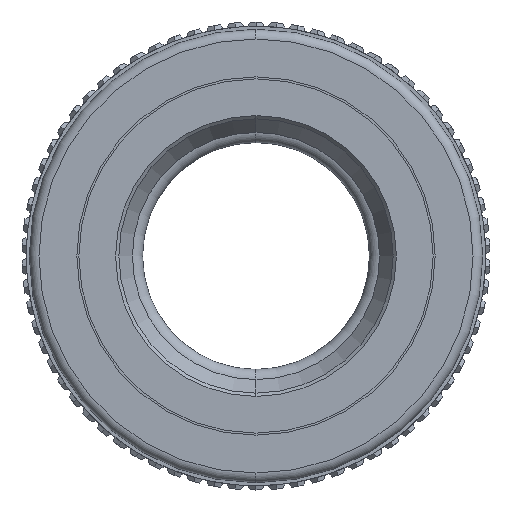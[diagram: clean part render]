
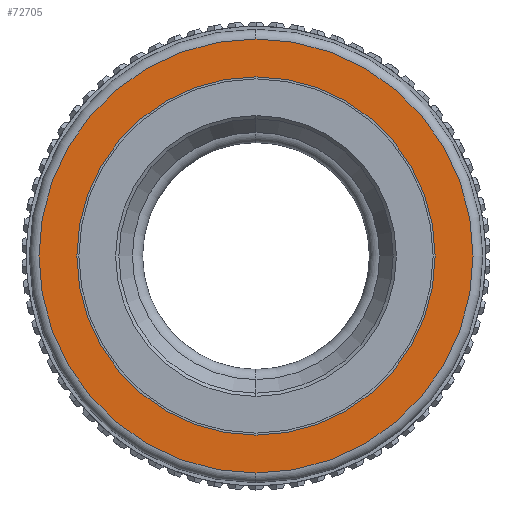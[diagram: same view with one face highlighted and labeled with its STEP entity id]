
A CAD part, left-side view. The second image highlights one B-rep face of the part: STEP entity #72705.
In plain terms, the highlighted planar face has unit normal (-1, 0, 0).
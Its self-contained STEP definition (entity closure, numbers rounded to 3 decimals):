
#1708 = EDGE_CURVE ( 'NONE', #17725, #106038, #87729, .T. ) ;
#2070 = DIRECTION ( 'NONE',  ( 0., 0., -1. ) ) ;
#5396 = FACE_OUTER_BOUND ( 'NONE', #30102, .T. ) ;
#7210 = AXIS2_PLACEMENT_3D ( 'NONE', #75855, #14411, #86142 ) ;
#10005 = DIRECTION ( 'NONE',  ( 1., 0., 0. ) ) ;
#14411 = DIRECTION ( 'NONE',  ( -1., 0., 0. ) ) ;
#17725 = VERTEX_POINT ( 'NONE', #18200 ) ;
#17738 = AXIS2_PLACEMENT_3D ( 'NONE', #114400, #53076, #124621 ) ;
#18200 = CARTESIAN_POINT ( 'NONE',  ( 0., 0., 22.2 ) ) ;
#18320 = VERTEX_POINT ( 'NONE', #117443 ) ;
#22757 = AXIS2_PLACEMENT_3D ( 'NONE', #93799, #10005, #53025 ) ;
#24010 = ORIENTED_EDGE ( 'NONE', *, *, #81642, .F. ) ;
#30102 = EDGE_LOOP ( 'NONE', ( #122536, #48731 ) ) ;
#31882 = ORIENTED_EDGE ( 'NONE', *, *, #1708, .F. ) ;
#34974 = CARTESIAN_POINT ( 'NONE',  ( 0., 0., 0. ) ) ;
#40142 = CIRCLE ( 'NONE', #17738, 26.9 ) ;
#42351 = CARTESIAN_POINT ( 'NONE',  ( 0., 0., -26.9 ) ) ;
#42683 = PLANE ( 'NONE',  #22757 ) ;
#45280 = DIRECTION ( 'NONE',  ( 0., 0., 1. ) ) ;
#48131 = CIRCLE ( 'NONE', #71244, 22.2 ) ;
#48731 = ORIENTED_EDGE ( 'NONE', *, *, #125585, .T. ) ;
#53025 = DIRECTION ( 'NONE',  ( 0., 0., -1. ) ) ;
#53076 = DIRECTION ( 'NONE',  ( -1., 0., 0. ) ) ;
#63527 = DIRECTION ( 'NONE',  ( -1., 0., 0. ) ) ;
#71244 = AXIS2_PLACEMENT_3D ( 'NONE', #34974, #106667, #45280 ) ;
#72705 = ADVANCED_FACE ( 'NONE', ( #5396, #108030 ), #42683, .F. ) ;
#75855 = CARTESIAN_POINT ( 'NONE',  ( 0., 0., 0. ) ) ;
#78125 = CARTESIAN_POINT ( 'NONE',  ( 0., 0., -22.2 ) ) ;
#81225 = EDGE_CURVE ( 'NONE', #93793, #18320, #40142, .T. ) ;
#81642 = EDGE_CURVE ( 'NONE', #106038, #17725, #48131, .T. ) ;
#86142 = DIRECTION ( 'NONE',  ( 0., 0., 1. ) ) ;
#87729 = CIRCLE ( 'NONE', #7210, 22.2 ) ;
#93793 = VERTEX_POINT ( 'NONE', #42351 ) ;
#93799 = CARTESIAN_POINT ( 'NONE',  ( 0., 22.2, 0. ) ) ;
#106038 = VERTEX_POINT ( 'NONE', #78125 ) ;
#106667 = DIRECTION ( 'NONE',  ( -1., 0., 0. ) ) ;
#108030 = FACE_BOUND ( 'NONE', #110755, .T. ) ;
#110755 = EDGE_LOOP ( 'NONE', ( #31882, #24010 ) ) ;
#114400 = CARTESIAN_POINT ( 'NONE',  ( 0., 0., 0. ) ) ;
#117443 = CARTESIAN_POINT ( 'NONE',  ( 0., 0., 26.9 ) ) ;
#122536 = ORIENTED_EDGE ( 'NONE', *, *, #81225, .T. ) ;
#124621 = DIRECTION ( 'NONE',  ( 0., 0., -1. ) ) ;
#124754 = CARTESIAN_POINT ( 'NONE',  ( 0., 0., 0. ) ) ;
#125585 = EDGE_CURVE ( 'NONE', #18320, #93793, #129402, .T. ) ;
#126364 = AXIS2_PLACEMENT_3D ( 'NONE', #124754, #63527, #2070 ) ;
#129402 = CIRCLE ( 'NONE', #126364, 26.9 ) ;
